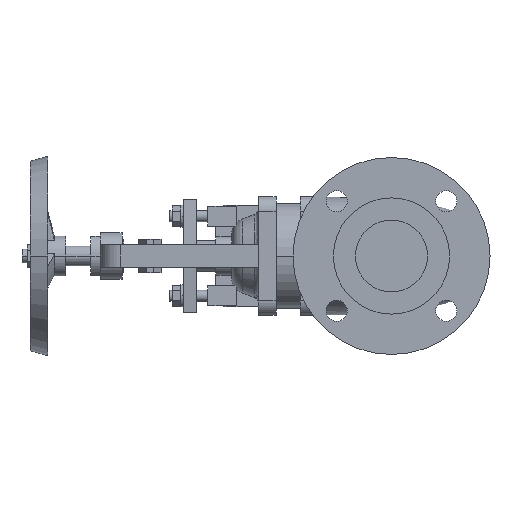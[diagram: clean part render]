
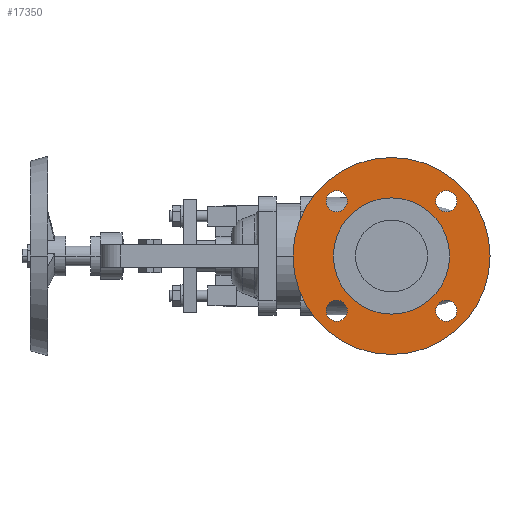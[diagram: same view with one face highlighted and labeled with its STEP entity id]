
A CAD part, left-side view. The second image highlights one B-rep face of the part: STEP entity #17350.
In plain terms, the highlighted planar face has unit normal (-1, 0, 0).
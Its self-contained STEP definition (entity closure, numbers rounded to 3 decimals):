
#4640=CARTESIAN_POINT('',(1.6,0.,89.));
#4650=VERTEX_POINT('',#4640);
#4810=CARTESIAN_POINT('',(1.6,0.,-89.));
#4820=VERTEX_POINT('',#4810);
#4850=CARTESIAN_POINT('',(1.6,0.,0.));
#4860=DIRECTION('',(1.,0.,0.));
#4870=DIRECTION('',(0.,0.,-1.));
#4880=AXIS2_PLACEMENT_3D('',#4850,#4860,#4870);
#4890=CIRCLE('',#4880,89.);
#4900=EDGE_CURVE('',#4650,#4820,#4890,.T.);
#5130=CARTESIAN_POINT('',(1.6,49.497,
-39.997));
#5140=VERTEX_POINT('',#5130);
#5300=CARTESIAN_POINT('',(1.6,49.497,
-58.997));
#5310=VERTEX_POINT('',#5300);
#5340=CARTESIAN_POINT('',(1.6,49.497,
-49.497));
#5350=DIRECTION('',(-1.,0.,0.));
#5360=DIRECTION('',(0.,0.,-1.));
#5370=AXIS2_PLACEMENT_3D('',#5340,#5350,#5360);
#5380=CIRCLE('',#5370,9.5);
#5390=EDGE_CURVE('',#5140,#5310,#5380,.T.);
#5620=CARTESIAN_POINT('',(1.6,-49.497,
-39.997));
#5630=VERTEX_POINT('',#5620);
#5660=CARTESIAN_POINT('',(1.6,-49.497,
-49.497));
#5670=DIRECTION('',(-1.,0.,0.));
#5680=DIRECTION('',(0.,0.,-1.));
#5690=AXIS2_PLACEMENT_3D('',#5660,#5670,#5680);
#5700=CIRCLE('',#5690,9.5);
#5710=CARTESIAN_POINT('',(1.6,-49.497,
-58.997));
#5720=VERTEX_POINT('',#5710);
#5730=EDGE_CURVE('',#5720,#5630,#5700,.T.);
#6110=CARTESIAN_POINT('',(1.6,49.497,
58.997));
#6120=VERTEX_POINT('',#6110);
#6150=CARTESIAN_POINT('',(1.6,49.497,
49.497));
#6160=DIRECTION('',(-1.,0.,0.));
#6170=DIRECTION('',(0.,0.,-1.));
#6180=AXIS2_PLACEMENT_3D('',#6150,#6160,#6170);
#6190=CIRCLE('',#6180,9.5);
#6200=CARTESIAN_POINT('',(1.6,49.497,
39.997));
#6210=VERTEX_POINT('',#6200);
#6220=EDGE_CURVE('',#6210,#6120,#6190,.T.);
#6600=CARTESIAN_POINT('',(1.6,-49.497,
39.997));
#6610=VERTEX_POINT('',#6600);
#6640=CARTESIAN_POINT('',(1.6,-49.497,
49.497));
#6650=DIRECTION('',(-1.,0.,0.));
#6660=DIRECTION('',(0.,0.,-1.));
#6670=AXIS2_PLACEMENT_3D('',#6640,#6650,#6660);
#6680=CIRCLE('',#6670,9.5);
#6690=CARTESIAN_POINT('',(1.6,-49.497,
58.997));
#6700=VERTEX_POINT('',#6690);
#6710=EDGE_CURVE('',#6700,#6610,#6680,.T.);
#7090=CARTESIAN_POINT('',(1.6,-52.5,0.));
#7100=VERTEX_POINT('',#7090);
#7260=CARTESIAN_POINT('',(1.6,52.5,0.));
#7270=VERTEX_POINT('',#7260);
#7300=CARTESIAN_POINT('',(1.6,0.,0.));
#7310=DIRECTION('',(-1.,0.,0.));
#7320=DIRECTION('',(0.,1.,0.));
#7330=AXIS2_PLACEMENT_3D('',#7300,#7310,#7320);
#7340=CIRCLE('',#7330,52.5);
#7350=EDGE_CURVE('',#7100,#7270,#7340,.T.);
#17000=CARTESIAN_POINT('',(1.6,70.75,0.)
);
#17010=DIRECTION('',(1.,0.,0.));
#17020=DIRECTION('',(0.,-1.,0.));
#17030=AXIS2_PLACEMENT_3D('',#17000,#17010,#17020);
#17040=PLANE('',#17030);
#17050=EDGE_CURVE('',#7270,#7100,#7340,.T.);
#17060=ORIENTED_EDGE('',*,*,#17050,.F.);
#17070=ORIENTED_EDGE('',*,*,#7350,.F.);
#17080=EDGE_LOOP('',(#17070,#17060));
#17090=FACE_BOUND('',#17080,.T.);
#17100=EDGE_CURVE('',#4820,#4650,#4890,.T.);
#17110=ORIENTED_EDGE('',*,*,#17100,.F.);
#17120=ORIENTED_EDGE('',*,*,#4900,.F.);
#17130=EDGE_LOOP('',(#17120,#17110));
#17140=FACE_OUTER_BOUND('',#17130,.T.);
#17150=EDGE_CURVE('',#5310,#5140,#5380,.T.);
#17160=ORIENTED_EDGE('',*,*,#17150,.F.);
#17170=ORIENTED_EDGE('',*,*,#5390,.F.);
#17180=EDGE_LOOP('',(#17170,#17160));
#17190=FACE_BOUND('',#17180,.T.);
#17200=EDGE_CURVE('',#5630,#5720,#5700,.T.);
#17210=ORIENTED_EDGE('',*,*,#17200,.F.);
#17220=ORIENTED_EDGE('',*,*,#5730,.F.);
#17230=EDGE_LOOP('',(#17220,#17210));
#17240=FACE_BOUND('',#17230,.T.);
#17250=ORIENTED_EDGE('',*,*,#6220,.F.);
#17260=EDGE_CURVE('',#6120,#6210,#6190,.T.);
#17270=ORIENTED_EDGE('',*,*,#17260,.F.);
#17280=EDGE_LOOP('',(#17270,#17250));
#17290=FACE_BOUND('',#17280,.T.);
#17300=ORIENTED_EDGE('',*,*,#6710,.F.);
#17310=EDGE_CURVE('',#6610,#6700,#6680,.T.);
#17320=ORIENTED_EDGE('',*,*,#17310,.F.);
#17330=EDGE_LOOP('',(#17320,#17300));
#17340=FACE_BOUND('',#17330,.T.);
#17350=ADVANCED_FACE('',(#17090,#17140,#17190,#17240,#17290,#17340),
#17040,.F.);
